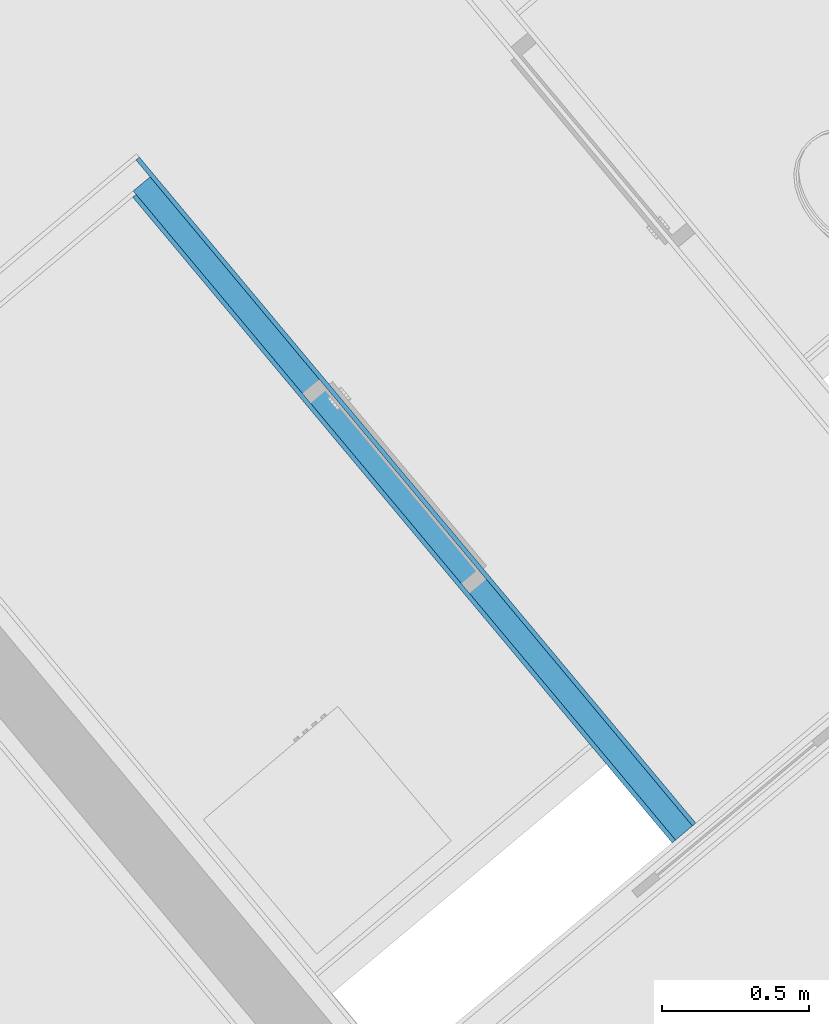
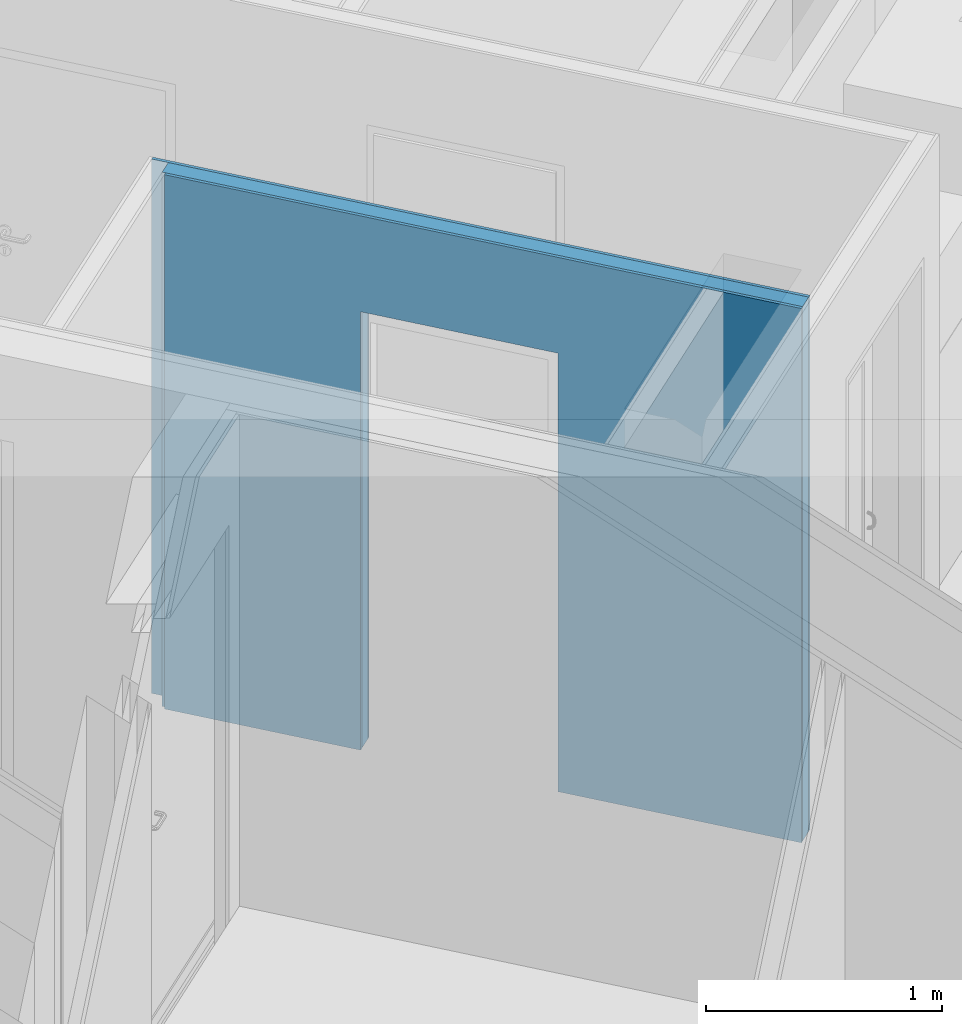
# One storey, part 5 of 53: 3 building element parts, 1 opening, 1 element without a shape of its own.
"""IFC4 building model written with IfcOpenShell, lengths in metres."""

from ifc_helpers import new_model, entity, si_unit, converted_unit, derived_unit, direction, frame, origin_with_axes, place, context, subcontext, project, spatial, polygons, material, type_object, element, aggregate, save


model = new_model("IFC4")

# Units and contexts
model_context = context("Model", 3, precision=1e-05, world=origin_with_axes(), true_north=direction((0.0, 1.0)))
body_context = subcontext(model_context, "Body", "Model", "MODEL_VIEW")
ifc_project = project(units=[si_unit("LENGTHUNIT", "METRE"), si_unit("AREAUNIT", "SQUARE_METRE"), si_unit("VOLUMEUNIT", "CUBIC_METRE"), converted_unit("PLANEANGLEUNIT", "DEGREE", entity("IfcPlaneAngleMeasure", 0.0174532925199), si_unit("PLANEANGLEUNIT", "RADIAN"), dimensions=[0, 0, 0, 0, 0, 0, 0]), converted_unit("TIMEUNIT", "Year", entity("IfcTimeMeasure", 31556926.0), si_unit("TIMEUNIT", "SECOND"), dimensions=[0, 0, 1, 0, 0, 0, 0]), si_unit("MASSUNIT", "GRAM", prefix="KILO"), si_unit("THERMODYNAMICTEMPERATUREUNIT", "DEGREE_CELSIUS"), si_unit("LUMINOUSINTENSITYUNIT", "LUMEN"), si_unit("ENERGYUNIT", "JOULE", prefix="MEGA"), derived_unit("THERMALCONDUCTANCEUNIT", [(si_unit("POWERUNIT", "WATT"), 1), (si_unit("LENGTHUNIT", "METRE"), -1), (si_unit("THERMODYNAMICTEMPERATUREUNIT", "KELVIN"), -1)]), derived_unit("SPECIFICHEATCAPACITYUNIT", [(si_unit("ENERGYUNIT", "JOULE"), 1), (si_unit("MASSUNIT", "GRAM", prefix="KILO"), -1), (si_unit("THERMODYNAMICTEMPERATUREUNIT", "KELVIN"), -1)]), derived_unit("MASSDENSITYUNIT", [(si_unit("MASSUNIT", "GRAM", prefix="KILO"), 1), (si_unit("VOLUMEUNIT", "CUBIC_METRE"), -1)])], contexts=[model_context])

# Site, building, storey
site_placement = place(None, frame((-0.00153261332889, -0.00661245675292, 0.0), z_axis=(0.0, 0.0, 1.0), x_axis=(1.0, 0.0, 0.0)))
site = spatial("IfcSite", under=ifc_project, at=site_placement, Name="Gelände", CompositionType="ELEMENT")
building_placement = place(site_placement, origin_with_axes())
building = spatial("IfcBuilding", under=site, at=building_placement, Name="Gebäude", CompositionType="ELEMENT")
storey_placement = place(building_placement, frame((0.0, 0.0, 2.74), z_axis=(0.0, 0.0, 1.0), x_axis=(1.0, 0.0, 0.0)))
storey = spatial("IfcBuildingStorey", under=building, at=storey_placement, Name="OG1", CompositionType="ELEMENT", Elevation=2.74)

# Wall, opening, building element parts
wall_type = type_object("IfcWallType", Name="IW LB 01 Leichtbautrennwand einfach 10,5 cm 105", PredefinedType="NOTDEFINED")
wall_placement = place(storey_placement, frame((3.83651471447, 23.8286993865, 0.0), z_axis=(0.0, 0.0, 1.0), x_axis=(0.641209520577, -0.767365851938, 0.0)))
wall = element("IfcWall", 1, at=wall_placement, inside=storey, type_object=wall_type, Name="Wand-012", PredefinedType="NOTDEFINED")
opening_placement = place(wall_placement, frame((1.32968654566, 0.0, 0.22), z_axis=(0.0, 0.0, 1.0), x_axis=(1.0, 0.0, 0.0)))
element("IfcOpeningElement", 2, at=opening_placement, cuts=wall, Name="Tür-015", context=body_context, identifier="Reference", shape_type="Tessellation", body=[
    polygons([(-0.445, -1.46532995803, 2.045), (-0.445, -1.46532995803, -0.22), (0.445, -1.46532995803, -0.22), (0.445, -1.46532995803, 2.045), (-0.445, 1.57032995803, 2.045), (-0.445, 1.57032995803, -0.22), (0.445, 1.57032995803, -0.22), (0.445, 1.57032995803, 2.045)], [[[1, 2, 3, 4]], [[5, 6, 2, 1]], [[6, 7, 3, 2]], [[7, 8, 4, 3]], [[8, 5, 1, 4]], [[7, 6, 5, 8]]], closed=True),
])
ifc_material_1 = material(Name="Gipskarton")
building_element_part_1_placement = place(wall_placement, origin_with_axes())
building_element_part_1 = element("IfcBuildingElementPart", 3, at=building_element_part_1_placement, material=ifc_material_1, Name="Gipskarton", PredefinedType="NOTDEFINED", context=body_context, shape_type="Tessellation", body=[
    polygons([(0.884686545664, 0.105, 2.265), (0.884686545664, 0.105, 0.22), (0.884686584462, 0.105, 0.0), (-0.0899999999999, 0.105, 0.0), (-0.0899999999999, 0.105, 2.76), (2.87109056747, 0.105, 2.76), (2.87109056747, 0.105, 0.0), (1.77468654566, 0.105, 0.0), (1.77468654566, 0.105, 0.22), (1.77468654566, 0.105, 2.265), (0.884686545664, 0.09, 2.265), (0.884686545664, 0.09, 0.22), (0.884686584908, 0.09, 0.0), (-0.0899999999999, 0.09, 0.0), (-0.0899999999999, 0.09, 2.76), (2.8710811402, 0.09, 2.76), (2.8710811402, 0.09, 0.0), (1.77468654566, 0.09, 0.0), (1.77468654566, 0.09, 0.22), (1.77468654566, 0.09, 2.265)], [[[1, 2, 3, 4, 5, 6, 7, 8, 9, 10]], [[2, 1, 11, 12]], [[2, 12, 13, 3]], [[13, 14, 4, 3]], [[4, 14, 15, 5]], [[6, 5, 15, 16]], [[7, 6, 16, 17]], [[8, 7, 17, 18]], [[19, 9, 8, 18]], [[10, 9, 19, 20]], [[1, 10, 20, 11]], [[20, 19, 18, 17, 16, 15, 14, 13, 12, 11]]], closed=True),
])
ifc_material_2 = material(Name="Mineralwolle weich")
building_element_part_2_placement = place(wall_placement, origin_with_axes())
building_element_part_2 = element("IfcBuildingElementPart", 4, at=building_element_part_2_placement, material=ifc_material_2, Name="Mineralwolle weich", PredefinedType="NOTDEFINED", context=body_context, shape_type="Tessellation", body=[
    polygons([(0.884686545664, 0.09, 2.265), (0.884686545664, 0.09, 0.22), (0.884686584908, 0.09, 0.0), (-0.0149999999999, 0.09, 0.0), (-0.0149999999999, 0.09, 2.76), (2.8710811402, 0.09, 2.76), (2.8710811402, 0.09, 0.0), (1.77468654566, 0.09, 0.0), (1.77468654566, 0.09, 0.22), (1.77468654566, 0.09, 2.265), (0.884686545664, 0.015, 2.265), (0.884686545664, 0.015, 0.22), (0.88468658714, 0.015, 0.0), (-0.015, 0.015, 0.0), (-0.015, 0.015, 2.76), (2.87103400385, 0.015, 2.76), (2.87103400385, 0.015, 0.0), (1.77468654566, 0.015, 0.0), (1.77468654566, 0.015, 0.22), (1.77468654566, 0.015, 2.265)], [[[1, 2, 3, 4, 5, 6, 7, 8, 9, 10]], [[2, 1, 11, 12]], [[2, 12, 13, 3]], [[13, 14, 4, 3]], [[4, 14, 15, 5]], [[6, 5, 15, 16]], [[7, 6, 16, 17]], [[8, 7, 17, 18]], [[19, 9, 8, 18]], [[10, 9, 19, 20]], [[1, 10, 20, 11]], [[20, 19, 18, 17, 16, 15, 14, 13, 12, 11]]], closed=True),
])
building_element_part_3_placement = place(wall_placement, origin_with_axes())
building_element_part_3 = element("IfcBuildingElementPart", 5, at=building_element_part_3_placement, material=ifc_material_1, Name="Gipskarton", PredefinedType="NOTDEFINED", context=body_context, shape_type="Tessellation", body=[
    polygons([(0.884686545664, 0.015, 2.265), (0.884686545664, 0.015, 0.22), (0.88468658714, 0.015, 0.0), (0.0, 0.015, 0.0), (0.0, 0.015, 2.76), (2.87103400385, 0.015, 2.76), (2.87103400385, 0.015, 0.0), (1.77468654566, 0.015, 0.0), (1.77468654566, 0.015, 0.22), (1.77468654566, 0.015, 2.265), (0.884686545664, -9.05945185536e-09, 2.265), (0.884686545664, -2.05159622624e-09, 0.22), (0.884686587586, -2.05159622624e-09, 0.0), (0.0, 0.0, 0.0), (0.0, 0.0, 2.76), (2.87102457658, 0.0, 2.76), (2.87102457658, 0.0, 0.0), (1.77468654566, -9.05944830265e-09, 0.0), (1.77468654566, -9.05945185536e-09, 0.22), (1.77468654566, -9.05945185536e-09, 2.265)], [[[1, 2, 3, 4, 5, 6, 7, 8, 9, 10]], [[2, 1, 11, 12]], [[2, 12, 13, 3]], [[13, 14, 4, 3]], [[4, 14, 15, 5]], [[6, 5, 15, 16]], [[7, 6, 16, 17]], [[8, 7, 17, 18]], [[19, 9, 8, 18]], [[10, 9, 19, 20]], [[1, 10, 20, 11]], [[20, 19, 18, 17, 16, 15, 14, 13, 12, 11]]], closed=True),
])
aggregate(wall, [building_element_part_1, building_element_part_2, building_element_part_3])

save(model, "model.ifc")
